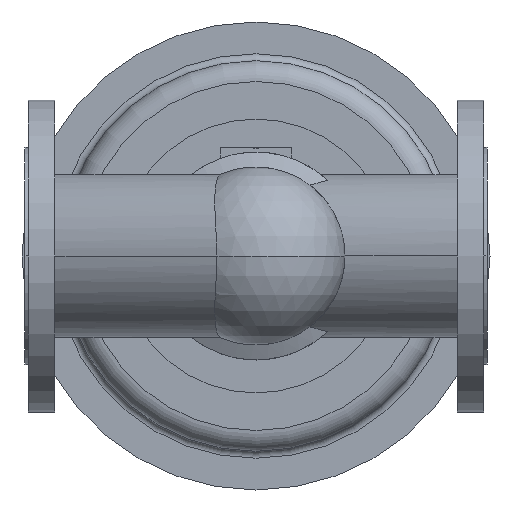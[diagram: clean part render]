
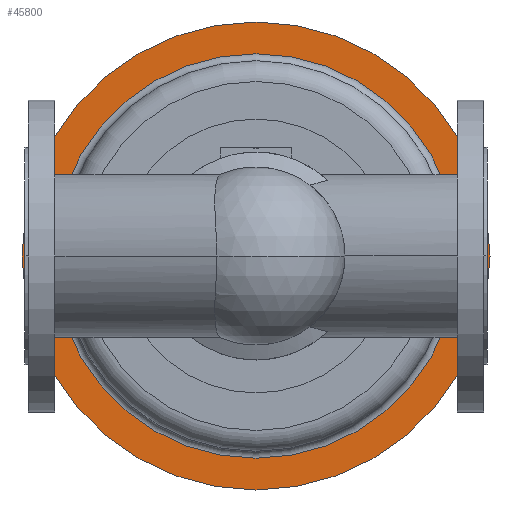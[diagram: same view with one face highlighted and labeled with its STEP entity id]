
A CAD part, front view. The second image highlights one B-rep face of the part: STEP entity #45800.
In plain terms, the highlighted planar face has unit normal (0, -1, 0).
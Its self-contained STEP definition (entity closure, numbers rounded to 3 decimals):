
#33230=CARTESIAN_POINT('',(402.5,615.,0.));
#33240=VERTEX_POINT('',#33230);
#33400=CARTESIAN_POINT('',(-2.5,615.,0.));
#33410=VERTEX_POINT('',#33400);
#33440=CARTESIAN_POINT('',(200.,615.,0.));
#33450=DIRECTION('',(0.,1.,0.));
#33460=DIRECTION('',(1.,0.,0.));
#33470=AXIS2_PLACEMENT_3D('',#33440,#33450,#33460);
#33480=CIRCLE('',#33470,202.5);
#33490=EDGE_CURVE('',#33240,#33410,#33480,.T.);
#33660=CARTESIAN_POINT('',(25.,615.,0.));
#33670=VERTEX_POINT('',#33660);
#33700=CARTESIAN_POINT('',(200.,615.,0.));
#33710=DIRECTION('',(0.,1.,0.));
#33720=DIRECTION('',(1.,0.,0.));
#33730=AXIS2_PLACEMENT_3D('',#33700,#33710,#33720);
#33740=CIRCLE('',#33730,175.);
#33750=CARTESIAN_POINT('',(375.,615.,0.));
#33760=VERTEX_POINT('',#33750);
#33770=EDGE_CURVE('',#33670,#33760,#33740,.T.);
#45610=CARTESIAN_POINT('',(388.75,615.,0.));
#45620=DIRECTION('',(0.,-1.,0.));
#45630=DIRECTION('',(-1.,0.,0.));
#45640=AXIS2_PLACEMENT_3D('',#45610,#45620,#45630);
#45650=PLANE('',#45640);
#45660=EDGE_CURVE('',#33410,#33240,#33480,.T.);
#45670=ORIENTED_EDGE('',*,*,#45660,.F.);
#45680=ORIENTED_EDGE('',*,*,#33490,.F.);
#45690=EDGE_LOOP('',(#45680,#45670));
#45700=FACE_OUTER_BOUND('',#45690,.T.);
#45710=ORIENTED_EDGE('',*,*,#33770,.T.);
#45720=CARTESIAN_POINT('',(200.,615.,-175.));
#45730=VERTEX_POINT('',#45720);
#45740=EDGE_CURVE('',#45730,#33670,#33740,.T.);
#45750=ORIENTED_EDGE('',*,*,#45740,.T.);
#45760=EDGE_CURVE('',#33760,#45730,#33740,.T.);
#45770=ORIENTED_EDGE('',*,*,#45760,.T.);
#45780=EDGE_LOOP('',(#45770,#45750,#45710));
#45790=FACE_BOUND('',#45780,.T.);
#45800=ADVANCED_FACE('',(#45700,#45790),#45650,.T.);
